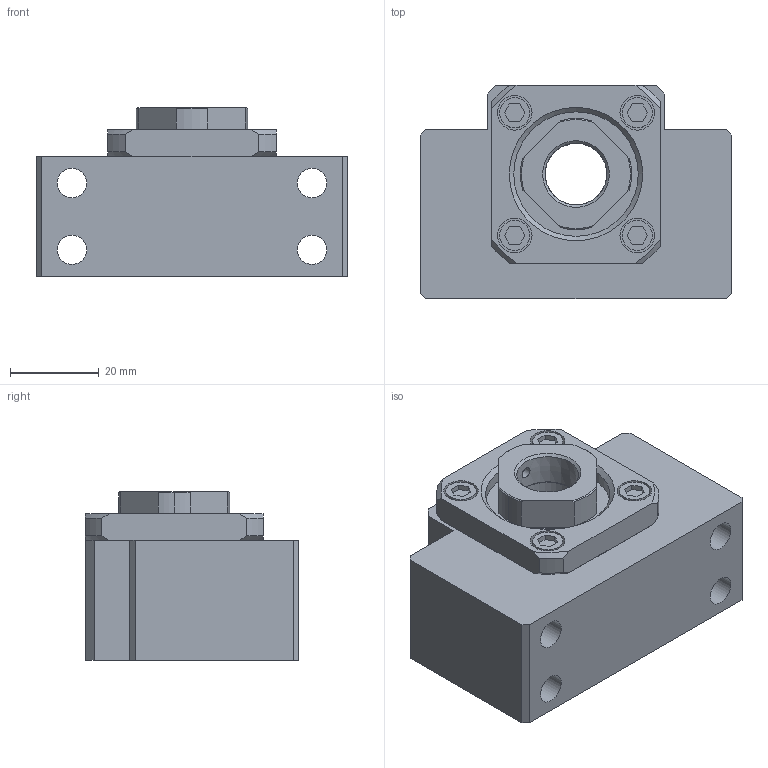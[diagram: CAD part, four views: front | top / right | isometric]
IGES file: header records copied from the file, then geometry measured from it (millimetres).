
Start section: Data from Parasolid IGES Translator 26.0.171, Copyright(c) 2006 Siemens PLM Software. All Rights Reserved.
Global section: file name: BK15Yes.igs; native system: By Siemens PLM Incorporated; preprocessor: XPlus GENERIC/IGES 26.0.171; author: Noname; organization: Noname; date: 20250611.070623; units: millimetre
Bounding box: 70 x 48 x 38 mm (x, y, z)
Surface area: 26614.2 mm2 (no closed solid volume)
Topology: 0 solids, 0 shells, 156 faces, 728 edges, 673 vertices
Faces by surface type: extrusion 94, revolution 62
